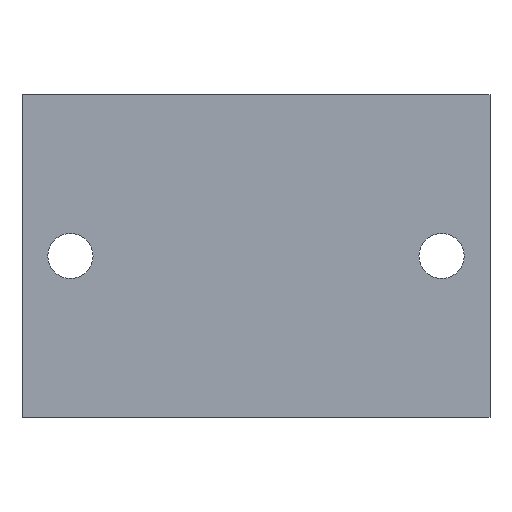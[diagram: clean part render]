
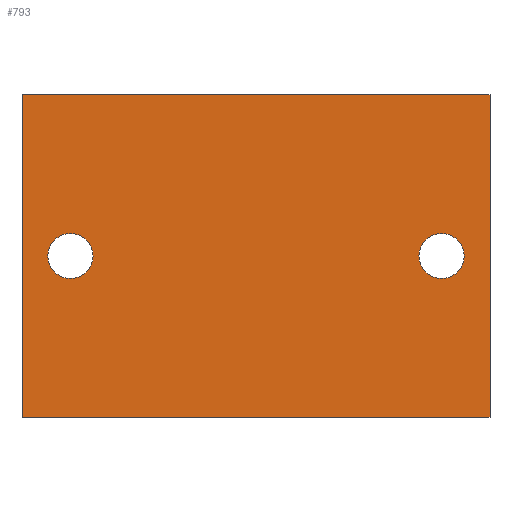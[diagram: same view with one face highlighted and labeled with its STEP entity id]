
A CAD part, front view. The second image highlights one B-rep face of the part: STEP entity #793.
In plain terms, the highlighted planar face has unit normal (0, -1, 0).
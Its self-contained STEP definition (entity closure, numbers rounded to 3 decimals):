
#2 = VERTEX_POINT ( 'NONE', #363 ) ;
#9 = FACE_OUTER_BOUND ( 'NONE', #195, .T. ) ;
#59 = VERTEX_POINT ( 'NONE', #332 ) ;
#62 = EDGE_CURVE ( 'NONE', #579, #59, #533, .T. ) ;
#70 = DIRECTION ( 'NONE',  ( 0., 0., 1. ) ) ;
#79 = DIRECTION ( 'NONE',  ( 1., 0., 0. ) ) ;
#85 = CIRCLE ( 'NONE', #268, 4.2 ) ;
#95 = EDGE_CURVE ( 'NONE', #579, #668, #581, .T. ) ;
#115 = DIRECTION ( 'NONE',  ( 0., 0., -1. ) ) ;
#133 = FACE_BOUND ( 'NONE', #871, .T. ) ;
#141 = DIRECTION ( 'NONE',  ( 0., -1., 0. ) ) ;
#162 = LINE ( 'NONE', #601, #694 ) ;
#176 = DIRECTION ( 'NONE',  ( 0., 0., -1. ) ) ;
#195 = EDGE_LOOP ( 'NONE', ( #738, #478, #437, #263 ) ) ;
#197 = CARTESIAN_POINT ( 'NONE',  ( -43.5, -38., -30. ) ) ;
#203 = EDGE_CURVE ( 'NONE', #59, #2, #162, .T. ) ;
#220 = EDGE_CURVE ( 'NONE', #668, #2, #265, .T. ) ;
#222 = AXIS2_PLACEMENT_3D ( 'NONE', #569, #512, #385 ) ;
#254 = CARTESIAN_POINT ( 'NONE',  ( -43.5, -38., 30. ) ) ;
#263 = ORIENTED_EDGE ( 'NONE', *, *, #95, .T. ) ;
#264 = VERTEX_POINT ( 'NONE', #820 ) ;
#265 = LINE ( 'NONE', #197, #819 ) ;
#266 = EDGE_CURVE ( 'NONE', #264, #776, #742, .T. ) ;
#268 = AXIS2_PLACEMENT_3D ( 'NONE', #493, #846, #176 ) ;
#288 = EDGE_CURVE ( 'NONE', #776, #264, #664, .T. ) ;
#308 = CARTESIAN_POINT ( 'NONE',  ( 34.5, -38., 0. ) ) ;
#318 = VECTOR ( 'NONE', #576, 1000. ) ;
#328 = EDGE_LOOP ( 'NONE', ( #561, #341 ) ) ;
#332 = CARTESIAN_POINT ( 'NONE',  ( 43.5, -38., 30. ) ) ;
#335 = ORIENTED_EDGE ( 'NONE', *, *, #266, .F. ) ;
#339 = PLANE ( 'NONE',  #641 ) ;
#341 = ORIENTED_EDGE ( 'NONE', *, *, #568, .F. ) ;
#363 = CARTESIAN_POINT ( 'NONE',  ( 43.5, -38., -30. ) ) ;
#385 = DIRECTION ( 'NONE',  ( 0., 0., -1. ) ) ;
#402 = DIRECTION ( 'NONE',  ( 0., 0., -1. ) ) ;
#410 = VERTEX_POINT ( 'NONE', #781 ) ;
#437 = ORIENTED_EDGE ( 'NONE', *, *, #62, .F. ) ;
#448 = CARTESIAN_POINT ( 'NONE',  ( -34.5, -38., 4.2 ) ) ;
#467 = CARTESIAN_POINT ( 'NONE',  ( 34.5, -38., 0. ) ) ;
#478 = ORIENTED_EDGE ( 'NONE', *, *, #203, .F. ) ;
#493 = CARTESIAN_POINT ( 'NONE',  ( -34.5, -38., 0. ) ) ;
#508 = ORIENTED_EDGE ( 'NONE', *, *, #288, .F. ) ;
#510 = FACE_BOUND ( 'NONE', #328, .T. ) ;
#512 = DIRECTION ( 'NONE',  ( 0., -1., 0. ) ) ;
#528 = DIRECTION ( 'NONE',  ( 0., 0., -1. ) ) ;
#529 = DIRECTION ( 'NONE',  ( 0., 1., 0. ) ) ;
#533 = LINE ( 'NONE', #602, #318 ) ;
#555 = AXIS2_PLACEMENT_3D ( 'NONE', #467, #141, #402 ) ;
#557 = DIRECTION ( 'NONE',  ( 0., -1., 0. ) ) ;
#561 = ORIENTED_EDGE ( 'NONE', *, *, #670, .F. ) ;
#568 = EDGE_CURVE ( 'NONE', #604, #410, #672, .T. ) ;
#569 = CARTESIAN_POINT ( 'NONE',  ( -34.5, -38., 0. ) ) ;
#576 = DIRECTION ( 'NONE',  ( 1., 0., 0. ) ) ;
#579 = VERTEX_POINT ( 'NONE', #858 ) ;
#581 = LINE ( 'NONE', #254, #723 ) ;
#601 = CARTESIAN_POINT ( 'NONE',  ( 43.5, -38., 30. ) ) ;
#602 = CARTESIAN_POINT ( 'NONE',  ( -43.5, -38., 30. ) ) ;
#604 = VERTEX_POINT ( 'NONE', #448 ) ;
#641 = AXIS2_PLACEMENT_3D ( 'NONE', #728, #529, #70 ) ;
#644 = DIRECTION ( 'NONE',  ( 0., 0., -1. ) ) ;
#664 = CIRCLE ( 'NONE', #787, 4.2 ) ;
#668 = VERTEX_POINT ( 'NONE', #842 ) ;
#670 = EDGE_CURVE ( 'NONE', #410, #604, #85, .T. ) ;
#672 = CIRCLE ( 'NONE', #222, 4.2 ) ;
#694 = VECTOR ( 'NONE', #528, 1000. ) ;
#723 = VECTOR ( 'NONE', #115, 1000. ) ;
#728 = CARTESIAN_POINT ( 'NONE',  ( -43.5, -38., 30. ) ) ;
#734 = CARTESIAN_POINT ( 'NONE',  ( 34.5, -38., -4.2 ) ) ;
#738 = ORIENTED_EDGE ( 'NONE', *, *, #220, .T. ) ;
#742 = CIRCLE ( 'NONE', #555, 4.2 ) ;
#776 = VERTEX_POINT ( 'NONE', #734 ) ;
#781 = CARTESIAN_POINT ( 'NONE',  ( -34.5, -38., -4.2 ) ) ;
#787 = AXIS2_PLACEMENT_3D ( 'NONE', #308, #557, #644 ) ;
#793 = ADVANCED_FACE ( 'NONE', ( #510, #133, #9 ), #339, .F. ) ;
#819 = VECTOR ( 'NONE', #79, 1000. ) ;
#820 = CARTESIAN_POINT ( 'NONE',  ( 34.5, -38., 4.2 ) ) ;
#842 = CARTESIAN_POINT ( 'NONE',  ( -43.5, -38., -30. ) ) ;
#846 = DIRECTION ( 'NONE',  ( 0., -1., 0. ) ) ;
#858 = CARTESIAN_POINT ( 'NONE',  ( -43.5, -38., 30. ) ) ;
#871 = EDGE_LOOP ( 'NONE', ( #508, #335 ) ) ;
